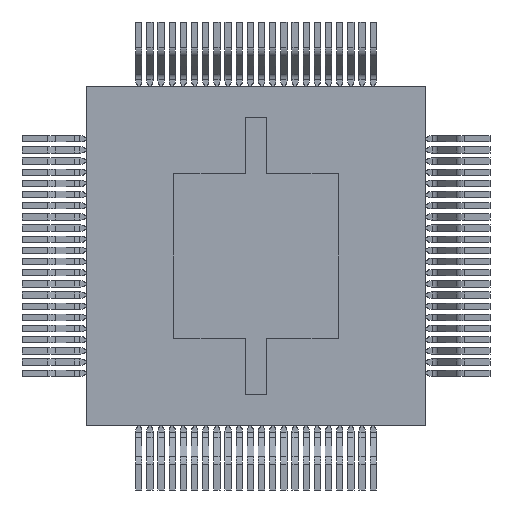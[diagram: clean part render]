
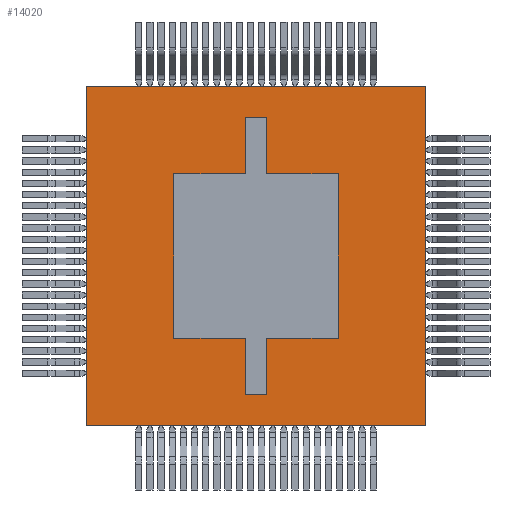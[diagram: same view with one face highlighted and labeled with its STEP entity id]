
A CAD part, front view. The second image highlights one B-rep face of the part: STEP entity #14020.
In plain terms, the highlighted planar face has unit normal (0, -1, 0).
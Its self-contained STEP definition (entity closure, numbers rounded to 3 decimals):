
#14020=ADVANCED_FACE('',(#43437),#43439,.F.);
#43437=FACE_BOUND('',#43438,.T.);
#43438=EDGE_LOOP('',(#68145,#68146,#68147,#68148,#68149,#68150,#68151,#68152));
#43439=PLANE('',#43440);
#43440=AXIS2_PLACEMENT_3D('',#43441,#43442,#43443);
#43441=CARTESIAN_POINT('',(0.,0.,0.));
#43442=DIRECTION('',(-0.,1.,0.));
#43443=DIRECTION('',(1.,0.,0.));
#68145=ORIENTED_EDGE('',*,*,#80191,.F.);
#68146=ORIENTED_EDGE('',*,*,#80188,.F.);
#68147=ORIENTED_EDGE('',*,*,#80185,.F.);
#68148=ORIENTED_EDGE('',*,*,#80412,.F.);
#68149=ORIENTED_EDGE('',*,*,#80401,.F.);
#68150=ORIENTED_EDGE('',*,*,#80396,.F.);
#68151=ORIENTED_EDGE('',*,*,#80383,.F.);
#68152=ORIENTED_EDGE('',*,*,#80380,.F.);
#80185=EDGE_CURVE('',#90338,#90340,#90341,.T.);
#80188=EDGE_CURVE('',#90340,#90344,#90345,.T.);
#80191=EDGE_CURVE('',#90344,#90349,#90350,.T.);
#80380=EDGE_CURVE('',#90349,#90720,#90721,.T.);
#80383=EDGE_CURVE('',#90720,#90725,#90726,.T.);
#80396=EDGE_CURVE('',#90725,#90744,#90745,.T.);
#80401=EDGE_CURVE('',#90744,#90752,#90753,.T.);
#80412=EDGE_CURVE('',#90752,#90338,#90768,.T.);
#90338=VERTEX_POINT('',#110887);
#90340=VERTEX_POINT('',#110891);
#90341=LINE('',#110892,#110893);
#90344=VERTEX_POINT('',#110901);
#90345=CIRCLE('',#110902,0.05);
#90349=VERTEX_POINT('',#110913);
#90350=LINE('',#110914,#110915);
#90720=VERTEX_POINT('',#111666);
#90721=CIRCLE('',#111667,0.05);
#90725=VERTEX_POINT('',#111678);
#90726=LINE('',#111679,#111680);
#90744=VERTEX_POINT('',#111725);
#90745=CIRCLE('',#111726,0.05);
#90752=VERTEX_POINT('',#111744);
#90753=LINE('',#111745,#111746);
#90768=CIRCLE('',#111784,0.05);
#110887=CARTESIAN_POINT('',(-9.45,0.,9.5));
#110891=CARTESIAN_POINT('',(9.45,0.,9.5));
#110892=CARTESIAN_POINT('',(-9.45,0.,9.5));
#110893=VECTOR('',#110894,1.);
#110894=DIRECTION('',(1.,0.,0.));
#110901=CARTESIAN_POINT('',(9.5,0.,9.45));
#110902=AXIS2_PLACEMENT_3D('',#110903,#110904,#110905);
#110903=CARTESIAN_POINT('',(9.45,0.,9.45));
#110904=DIRECTION('',(-0.,1.,0.));
#110905=DIRECTION('',(0.,0.,1.));
#110913=CARTESIAN_POINT('',(9.5,0.,-9.45));
#110914=CARTESIAN_POINT('',(9.5,0.,9.45));
#110915=VECTOR('',#110916,1.);
#110916=DIRECTION('',(0.,0.,-1.));
#111666=CARTESIAN_POINT('',(9.45,0.,-9.5));
#111667=AXIS2_PLACEMENT_3D('',#111668,#111669,#111670);
#111668=CARTESIAN_POINT('',(9.45,0.,-9.45));
#111669=DIRECTION('',(-0.,1.,0.));
#111670=DIRECTION('',(1.,0.,0.));
#111678=CARTESIAN_POINT('',(-9.45,0.,-9.5));
#111679=CARTESIAN_POINT('',(9.45,0.,-9.5));
#111680=VECTOR('',#111681,1.);
#111681=DIRECTION('',(-1.,0.,0.));
#111725=CARTESIAN_POINT('',(-9.5,0.,-9.45));
#111726=AXIS2_PLACEMENT_3D('',#111727,#111728,#111729);
#111727=CARTESIAN_POINT('',(-9.45,0.,-9.45));
#111728=DIRECTION('',(-0.,1.,0.));
#111729=DIRECTION('',(0.,0.,-1.));
#111744=CARTESIAN_POINT('',(-9.5,0.,9.45));
#111745=CARTESIAN_POINT('',(-9.5,0.,-9.45));
#111746=VECTOR('',#111747,1.);
#111747=DIRECTION('',(0.,0.,1.));
#111784=AXIS2_PLACEMENT_3D('',#111785,#111786,#111787);
#111785=CARTESIAN_POINT('',(-9.45,0.,9.45));
#111786=DIRECTION('',(-0.,1.,0.));
#111787=DIRECTION('',(-1.,0.,0.));
